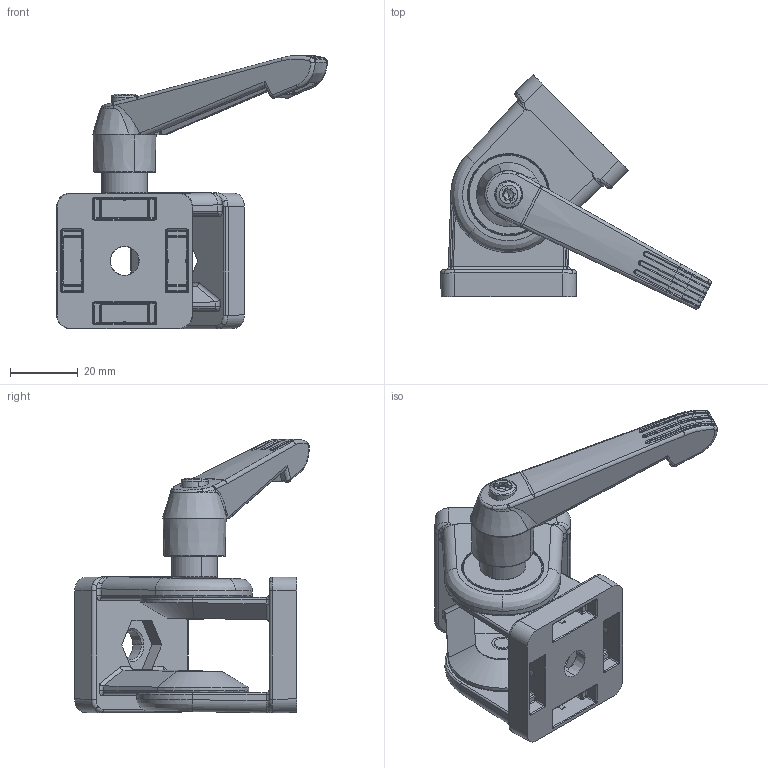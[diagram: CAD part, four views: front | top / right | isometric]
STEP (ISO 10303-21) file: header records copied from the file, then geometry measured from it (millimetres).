
FILE_DESCRIPTION (( 'STEP AP214' ), '1' );
FILE_NAME ('10154-GEL4040KLE.STEP', '2016-12-21T08:05:14', ( '' ), ( '' ), 'SwSTEP 2.0', 'SolidWorks 2016', '' );
FILE_SCHEMA (( 'AUTOMOTIVE_DESIGN' ));
Length unit declared in the file: millimetre
Products named in the file (3): 10154_klemmhebel; 10154_Gelenk; 10154-GEL4040KLE
Assembly tree (2 placements, depth 2):
  10154-GEL4040KLE
    10154_Gelenk
    10154_klemmhebel
Bounding box: 79.59 x 68.97 x 80.58 mm (x, y, z)
Volume: 53461.3 mm3; surface area: 35717.9 mm2
Topology: 12 solids, 13 shells, 1665 faces, 3917 edges, 2252 vertices
Faces by surface type: bspline 673, cylinder 558, plane 314, cone 120
Entity records: 82295 total; most frequent: CARTESIAN_POINT 30292, ORIENTED_EDGE 7712, DIRECTION 6152, EDGE_CURVE 3856, AXIS2_PLACEMENT_3D 2477, VERTEX_POINT 2252, EDGE_LOOP 1728, UNCERTAINTY_MEASURE_WITH_UNIT 1682
